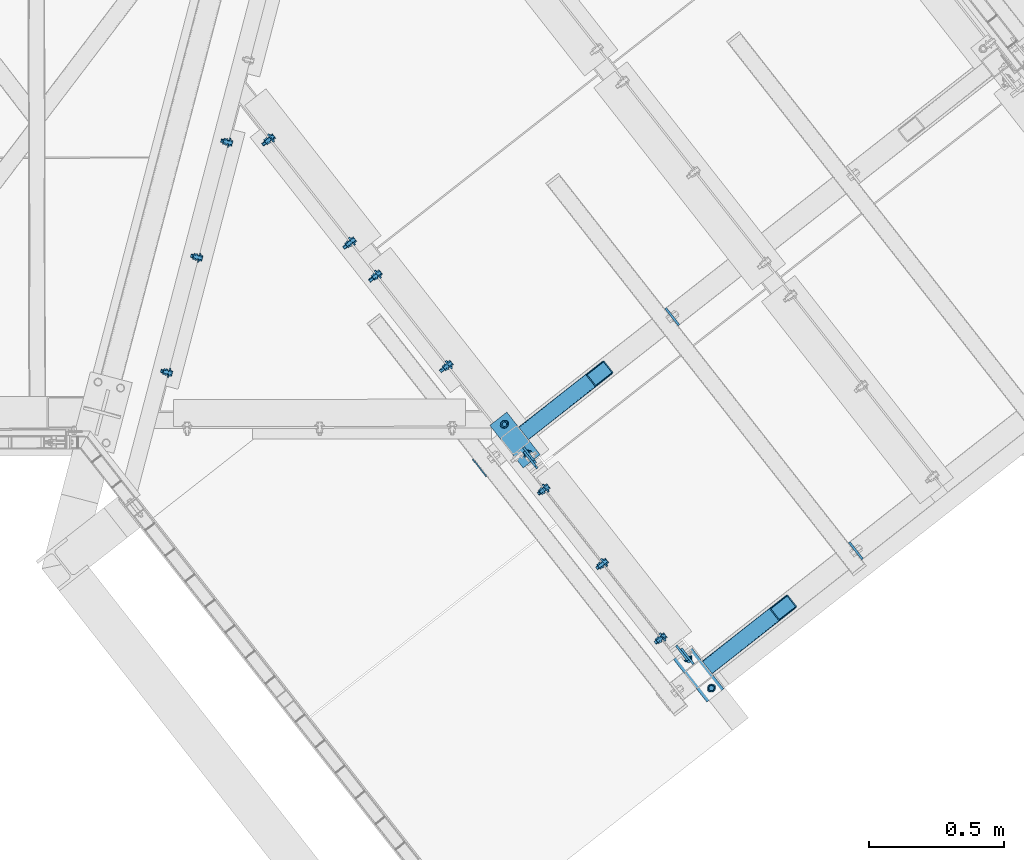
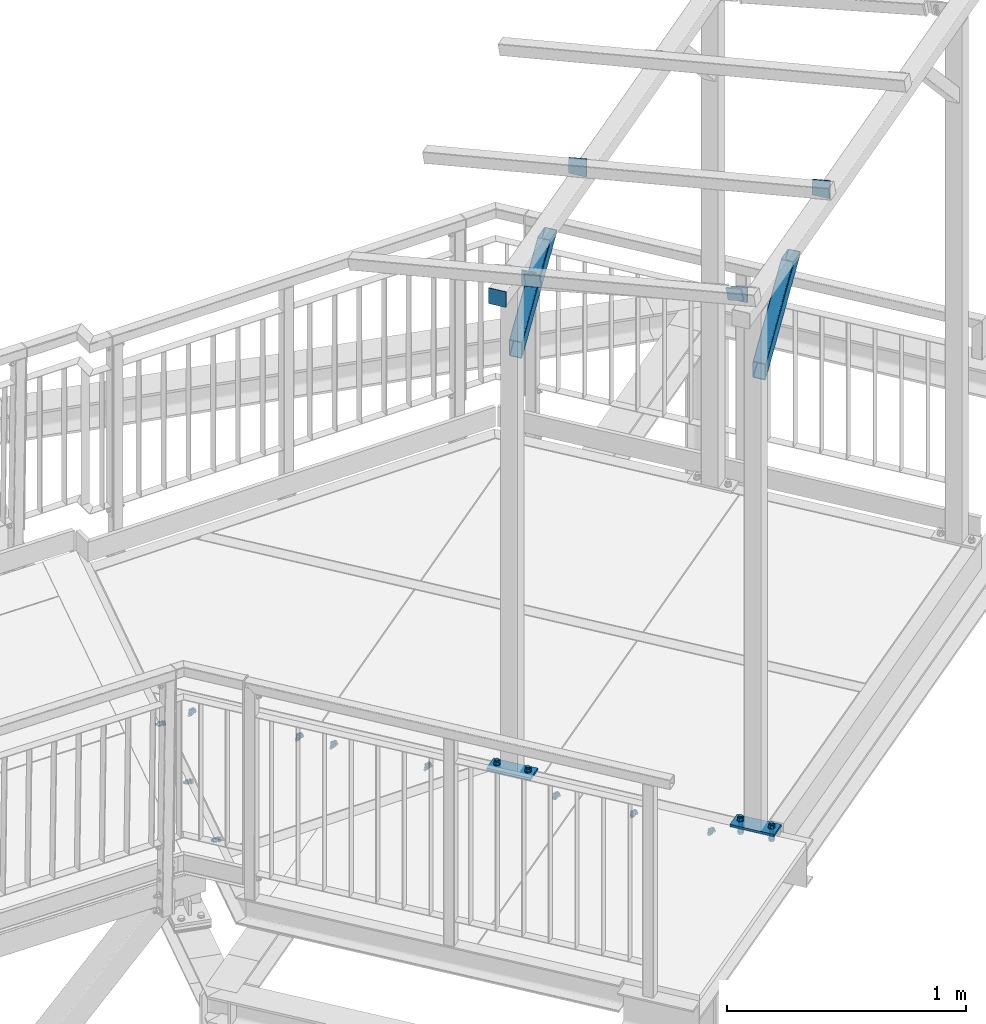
# One storey, part 125 of 169: 11 discrete accessories, 7 mechanical fasteners, 8 elements without a shape of their own.
"""IFC2X3 building model written with IfcOpenShell, lengths in millimetres."""

from ifc_helpers import new_model, si_unit, frame, frame_2d, origin_with_axes, origin_2d_with_axis, place, context, subcontext, project, spatial, polyline, circle_curve, parameter, trimmed, segment, composite_curve, hollow_rectangle, circle, outline, extrude, clip, halfspace, source, transform, mapped, material, type_object, element, aggregate, save


model = new_model("IFC2X3")

# Units and contexts
model_context = context("Model", 3, precision=1e-05, world=origin_with_axes())
body_context = subcontext(model_context, "Body", "Model", "MODEL_VIEW")
ifc_project = project(units=[si_unit("LENGTHUNIT", "METRE", prefix="MILLI"), si_unit("AREAUNIT", "SQUARE_METRE"), si_unit("VOLUMEUNIT", "CUBIC_METRE"), si_unit("MASSUNIT", "GRAM", prefix="KILO"), si_unit("TIMEUNIT", "SECOND"), si_unit("PLANEANGLEUNIT", "RADIAN"), si_unit("SOLIDANGLEUNIT", "STERADIAN"), si_unit("THERMODYNAMICTEMPERATUREUNIT", "DEGREE_CELSIUS"), si_unit("LUMINOUSINTENSITYUNIT", "LUMEN")], contexts=[model_context])

# Site, building, storey
site_placement = place(None, origin_with_axes())
site = spatial("IfcSite", under=ifc_project, at=site_placement, Name="Undefined", CompositionType="ELEMENT")
building_placement = place(site_placement, origin_with_axes())
building = spatial("IfcBuilding", under=site, at=building_placement, Name="Undefined", CompositionType="ELEMENT")
storey_placement = place(building_placement, origin_with_axes())
storey = spatial("IfcBuildingStorey", under=building, at=storey_placement, Name="Undefined", CompositionType="ELEMENT", Elevation=0.0)

# Assembly, discrete accessory
assembly_1_placement = place(storey_placement, origin_with_axes())
assembly_1 = element("IfcElementAssembly", 1, at=assembly_1_placement, inside=storey, Name="Steel Assembly", AssemblyPlace="NOTDEFINED", PredefinedType="RIGID_FRAME")
ifc_material_1 = material(Name="STEEL/S235")
discrete_accessory_type_1 = type_object("IfcDiscreteAccessoryType", Name="BLACHA")
discrete_accessory_1_placement = place(assembly_1_placement, frame((21199.3847495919, -340.369621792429, 16540.2280067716), z_axis=(-0.7867732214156, -0.61724217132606, -1.0406294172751e-07), x_axis=(0.617242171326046, -0.786773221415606, 1.36000016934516e-07)))
discrete_accessory_1 = element("IfcDiscreteAccessory", 2, at=discrete_accessory_1_placement, type_object=discrete_accessory_type_1, material=ifc_material_1, Name="BLACHA", ObjectType="BL8*80", context=body_context, shape_type="SweptSolid", body=[
    extrude(outline(polyline([(0.0, 0.0), (80.0000000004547, 5.02041075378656e-10), (80.0000000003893, 89.9999999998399), (-2.08646997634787e-06, 77.0), (0.0, 0.0)])), frame((1.81942236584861e-12, -3.63797880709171e-12, -4.00000000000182), z_axis=(0.0, 0.0, 1.0), x_axis=(1.0, 0.0, 0.0)), (0.0, 0.0, 1.0), 8.0),
])

# Assembly, discrete accessories
assembly_2_placement = place(storey_placement, origin_with_axes())
assembly_2 = element("IfcElementAssembly", 3, at=assembly_2_placement, inside=storey, Name="Steel Assembly", AssemblyPlace="NOTDEFINED", PredefinedType="RIGID_FRAME")
discrete_accessory_2_placement = place(assembly_2_placement, frame((20520.4185725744, 525.080652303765, 16364.2280064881), z_axis=(-0.7867732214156, -0.61724217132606, -1.0406294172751e-07), x_axis=(0.617242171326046, -0.786773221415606, 1.36000016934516e-07)))
discrete_accessory_2 = element("IfcDiscreteAccessory", 4, at=discrete_accessory_2_placement, type_object=discrete_accessory_type_1, material=ifc_material_1, Name="BLACHA", ObjectType="BL8*80", context=body_context, shape_type="SweptSolid", body=[
    extrude(outline(polyline([(0.0, 0.0), (80.0000000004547, 5.02041075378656e-10), (80.0000000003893, 89.9999999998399), (-2.08646997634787e-06, 77.0), (0.0, 0.0)])), frame((1.81942236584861e-12, -3.63797880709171e-12, -4.00000000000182), z_axis=(0.0, 0.0, 1.0), x_axis=(1.0, 0.0, 0.0)), (0.0, 0.0, 1.0), 8.0),
])
discrete_accessory_3_placement = place(assembly_2_placement, frame((19995.1540041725, 62.1571908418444, 13802.4173934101), z_axis=(0.0, 0.0, 1.0), x_axis=(-0.7867732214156, -0.61724217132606, -1.0406294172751e-07)))
discrete_accessory_3 = element("IfcDiscreteAccessory", 5, at=discrete_accessory_3_placement, type_object=discrete_accessory_type_1, material=ifc_material_1, Name="BLACHA", ObjectType="BL12*200", context=body_context, shape_type="SweptSolid", body=[
    extrude(outline(polyline([(80.0, -100.00000000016), (-4.00177668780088e-11, -100.000000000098), (4.00177668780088e-11, 100.000000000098), (80.00000000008, 100.000000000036), (80.0, -100.00000000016)])), frame((-1.81898942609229e-12, -1.81898940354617e-12, -5.99999999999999), z_axis=(0.0, 0.0, 1.0), x_axis=(1.0, 0.0, 0.0)), (0.0, 0.0, 1.0), 12.0),
])

# Discrete accessory
discrete_accessory_4_placement = place(assembly_1_placement, frame((20674.1203915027, -803.293352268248, 13801.4175387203), z_axis=(0.0, 0.0, 1.0), x_axis=(-0.7867732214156, -0.61724217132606, -1.0406294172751e-07)))
discrete_accessory_4 = element("IfcDiscreteAccessory", 6, at=discrete_accessory_4_placement, type_object=discrete_accessory_type_1, material=ifc_material_1, Name="BLACHA", ObjectType="BL12*200", context=body_context, shape_type="SweptSolid", body=[
    extrude(outline(polyline([(80.0, -100.00000000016), (-4.00177668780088e-11, -100.000000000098), (4.00177668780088e-11, 100.000000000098), (80.00000000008, 100.000000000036), (80.0, -100.00000000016)])), frame((-1.81898942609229e-12, -1.81898940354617e-12, -5.99999999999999), z_axis=(0.0, 0.0, 1.0), x_axis=(1.0, 0.0, 0.0)), (0.0, 0.0, 1.0), 12.0),
])

# Assembly, discrete accessory
assembly_3_placement = place(storey_placement, origin_with_axes())
assembly_3 = element("IfcElementAssembly", 7, at=assembly_3_placement, inside=storey, Name="Steel Assembly", AssemblyPlace="NOTDEFINED", PredefinedType="RIGID_FRAME")
discrete_accessory_5_placement = place(assembly_3_placement, frame((20609.1754595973, -785.315101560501, 16473.0800036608), z_axis=(-0.7867732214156, -0.61724217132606, -1.0406294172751e-07), x_axis=(-0.111881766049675, 0.142611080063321, 0.983435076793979)))
discrete_accessory_5 = element("IfcDiscreteAccessory", 8, at=discrete_accessory_5_placement, type_object=discrete_accessory_type_1, material=ifc_material_1, Name="BLACHA", ObjectType="BL8*60", context=body_context, shape_type="SweptSolid", body=[
    extrude(outline(polyline([(0.0, 0.0), (60.0000000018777, -8.8220986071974e-11), (60.0000000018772, 69.999999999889), (1.4915713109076e-10, 69.9999999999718), (0.0, 0.0)])), frame((1.81942236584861e-12, -3.63797880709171e-12, -4.00000000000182), z_axis=(0.0, 0.0, 1.0), x_axis=(1.0, 0.0, 0.0)), (0.0, 0.0, 1.0), 8.0),
])

# Discrete accessory
discrete_accessory_6_placement = place(assembly_1_placement, frame((20624.2535450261, -791.573639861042, 16461.5583801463), z_axis=(-0.7867732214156, -0.61724217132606, -1.0406294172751e-07), x_axis=(0.0, 0.0, 1.0)))
discrete_accessory_6 = element("IfcDiscreteAccessory", 9, at=discrete_accessory_6_placement, type_object=discrete_accessory_type_1, material=ifc_material_1, Name="BLACHA", ObjectType="BL8*75", context=body_context, shape_type="SweptSolid", body=[
    extrude(outline(polyline([(0.0, 0.0), (77.697319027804, 2.60843080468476e-09), (63.9232788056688, 74.7314300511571), (-2.93584889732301e-09, 62.9494819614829), (0.0, 0.0)])), frame((1.81942236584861e-12, -3.63797880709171e-12, -4.00000000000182), z_axis=(0.0, 0.0, 1.0), x_axis=(1.0, 0.0, 0.0)), (0.0, 0.0, 1.0), 8.0),
])

discrete_accessory_7_placement = place(assembly_3_placement, frame((19997.1564551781, -5.19963707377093, 16351.3364554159), z_axis=(-0.7867732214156, -0.61724217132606, -1.0406294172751e-07), x_axis=(0.111881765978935, -0.142611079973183, -0.983435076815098)))
discrete_accessory_7 = element("IfcDiscreteAccessory", 10, at=discrete_accessory_7_placement, type_object=discrete_accessory_type_1, material=ifc_material_1, Name="BLACHA", ObjectType="BL8*60", context=body_context, shape_type="SweptSolid", body=[
    extrude(outline(polyline([(0.0, 0.0), (60.0000000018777, -8.8220986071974e-11), (60.0000000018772, 69.999999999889), (1.4915713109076e-10, 69.9999999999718), (0.0, 0.0)])), frame((1.81942236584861e-12, -3.63797880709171e-12, -4.00000000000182), z_axis=(0.0, 0.0, 1.0), x_axis=(1.0, 0.0, 0.0)), (0.0, 0.0, 1.0), 8.0),
])

aggregate(assembly_3, [discrete_accessory_5, discrete_accessory_7])

discrete_accessory_8_placement = place(assembly_2_placement, frame((19994.6667412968, 10.9347759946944, 16362.8580790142), z_axis=(-0.7867732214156, -0.61724217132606, -1.0406294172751e-07), x_axis=(-2.54700353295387e-10, 0.0, -1.0)))
discrete_accessory_8 = element("IfcDiscreteAccessory", 11, at=discrete_accessory_8_placement, type_object=discrete_accessory_type_1, material=ifc_material_1, Name="BLACHA", ObjectType="BL8*75", context=body_context, shape_type="SweptSolid", body=[
    extrude(outline(polyline([(0.0, 0.0), (77.697319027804, 2.60843080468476e-09), (63.9232788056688, 74.7314300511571), (-2.93584889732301e-09, 62.9494819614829), (0.0, 0.0)])), frame((1.81942236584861e-12, -3.63797880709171e-12, -4.00000000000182), z_axis=(0.0, 0.0, 1.0), x_axis=(1.0, 0.0, 0.0)), (0.0, 0.0, 1.0), 8.0),
])

discrete_accessory_9_placement = place(assembly_2_placement, frame((19807.9954205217, -33.8321338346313, 16364.2279124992), z_axis=(0.786773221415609, 0.617242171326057, 0.0), x_axis=(0.617242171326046, -0.786773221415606, 1.36000016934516e-07)))
discrete_accessory_9 = element("IfcDiscreteAccessory", 12, at=discrete_accessory_9_placement, type_object=discrete_accessory_type_1, material=ifc_material_1, Name="BLACHA", ObjectType="BL3*80", context=body_context, shape_type="SweptSolid", body=[
    extrude(outline(polyline([(0.0, 0.0), (80.0000000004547, 5.02041075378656e-10), (80.0000000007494, 80.0000000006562), (1.40171323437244e-08, 80.0000000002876), (0.0, 0.0)])), frame((1.81898940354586e-12, -1.77635442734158e-15, -1.50000000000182), z_axis=(0.0, 0.0, 1.0), x_axis=(1.0, 0.0, 0.0)), (0.0, 0.0, 1.0), 3.0),
])

discrete_accessory_type_2 = type_object("IfcDiscreteAccessoryType", Name="BEAM")
discrete_accessory_10_placement = place(assembly_2_placement, frame((20293.1731033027, 295.960640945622, 16305.4411428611), z_axis=(0.556332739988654, 0.436456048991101, -0.707106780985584), x_axis=(-0.556332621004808, -0.436456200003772, -0.707106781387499)))
discrete_accessory_10 = element("IfcDiscreteAccessory", 13, at=discrete_accessory_10_placement, type_object=discrete_accessory_type_2, material=ifc_material_1, Name="BEAM", ObjectType="SHS60*3", context=body_context, shape_type="Clipping", body=[
    clip(clip(extrude(hollow_rectangle(XDim=60.0, YDim=60.0, WallThickness=3.0, InnerFilletRadius=3.0, OuterFilletRadius=6.0, at=origin_2d_with_axis()), frame((637.904540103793, 1.81363206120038e-12, 3.67338962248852e-12), z_axis=(-1.0, -3.46944695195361e-18, -1.38777878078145e-17), x_axis=(1.73472347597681e-18, -1.0, 0.0)), (0.0, 0.0, 1.0), 710.12), halfspace(frame((-143.137085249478, 3.41260601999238e-08, -678.822510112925), z_axis=(-0.707106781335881, -2.34577541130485e-10, 0.707106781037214), x_axis=(0.0, 1.0, 0.0)), True)), halfspace(frame((-705.391195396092, 5.44144313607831e-06, 735.390981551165), z_axis=(0.707106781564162, 2.34575523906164e-10, 0.707106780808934), x_axis=(0.0, 1.0, 0.0)), True)),
])

discrete_accessory_11_placement = place(assembly_1_placement, frame((20972.1394769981, -569.48988379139, 16481.4411431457), z_axis=(0.556332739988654, 0.436456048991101, -0.707106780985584), x_axis=(-0.556332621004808, -0.436456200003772, -0.707106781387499)))
discrete_accessory_11 = element("IfcDiscreteAccessory", 14, at=discrete_accessory_11_placement, type_object=discrete_accessory_type_2, material=ifc_material_1, Name="BEAM", ObjectType="SHS60*3", context=body_context, shape_type="Clipping", body=[
    clip(clip(extrude(hollow_rectangle(XDim=60.0, YDim=60.0, WallThickness=3.0, InnerFilletRadius=3.0, OuterFilletRadius=6.0, at=origin_2d_with_axis()), frame((637.904540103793, 1.81363206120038e-12, 3.67338962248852e-12), z_axis=(-1.0, -3.46944695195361e-18, -1.38777878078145e-17), x_axis=(1.73472347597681e-18, -1.0, 0.0)), (0.0, 0.0, 1.0), 710.12), halfspace(frame((-143.137085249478, 3.41260601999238e-08, -678.822510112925), z_axis=(-0.707106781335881, -2.34577541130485e-10, 0.707106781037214), x_axis=(0.0, 1.0, 0.0)), True)), halfspace(frame((-705.391195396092, 5.44144313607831e-06, 735.390981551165), z_axis=(0.707106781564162, 2.34575523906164e-10, 0.707106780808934), x_axis=(0.0, 1.0, 0.0)), True)),
])

# Assembly, mechanical fastener
assembly_4_placement = place(storey_placement, origin_with_axes())
assembly_4 = element("IfcElementAssembly", 15, at=assembly_4_placement, inside=storey, Name="Steel Assembly", AssemblyPlace="NOTDEFINED", PredefinedType="RIGID_FRAME")
ifc_material_2 = material(Name="Undefined")
discrete_accessory_type_3 = type_object("IfcDiscreteAccessoryType", Name="Bolt assembly")
shared_shape_1 = source(origin_with_axes(), body_context, "Body", "SweptSolid", [
    extrude(circle(Radius=7.5, at=origin_2d_with_axis()), frame((0.0, 4.99997856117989, 0.0), z_axis=(0.0, 1.0, 0.0), x_axis=(1.0, 0.0, 0.0)), (0.0, 0.0, 1.0), 7.0),
    extrude(outline(composite_curve([segment(polyline([(-10.0, 7.5), (10.0, 7.5)]), True, "CONTINUOUS"), segment(trimmed(circle_curve(frame_2d((10.0, 0.0), x_axis=(0.0, 1.0)), 7.5), [parameter(0.0)], [parameter(3.14159265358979)], False, "PARAMETER"), True, "CONTINUOUS"), segment(polyline([(10.0, -7.5), (-10.0, -7.5)]), True, "CONTINUOUS"), segment(trimmed(circle_curve(frame_2d((-10.0, 0.0), x_axis=(0.0, -1.0)), 7.5), [parameter(0.0)], [parameter(3.14159265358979)], False, "PARAMETER"), True, "DISCONTINUOUS")], self_intersect=False)), frame((0.0, 0.100000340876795, 0.0), z_axis=(0.0, 1.0, 0.0), x_axis=(1.0, 0.0, 0.0)), (0.0, 0.0, 1.0), 5.0),
    extrude(circle(Radius=7.5, at=origin_2d_with_axis()), frame((0.0, 11.9059306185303, 0.0), z_axis=(0.0, 1.0, 0.0), x_axis=(1.0, 0.0, 0.0)), (0.0, 0.0, 1.0), 3.1),
    extrude(outline(polyline([(10.39230484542, 0.0), (5.19615242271, 9.00000000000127), (-5.19615242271, 9.00000000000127), (-10.39230484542, 0.0), (-5.19615242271, -9.00000000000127), (5.19615242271, -9.00000000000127), (10.39230484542, 0.0)])), frame((0.0, -10.4999989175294, 0.0), z_axis=(0.0, 1.0, 0.0), x_axis=(1.0, 0.0, 0.0)), (0.0, 0.0, 1.0), 7.5),
    extrude(circle(Radius=6.0, at=origin_2d_with_axis()), frame((0.0, -3.00000607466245, 0.0), z_axis=(0.0, 1.0, 0.0), x_axis=(1.0, 0.0, 0.0)), (0.0, 0.0, 1.0), 45.0),
    extrude(circle(Radius=12.0, at=origin_2d_with_axis()), frame((0.0, -3.00000607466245, 0.0), z_axis=(0.0, 1.0, 0.0), x_axis=(1.0, 0.0, 0.0)), (0.0, 0.0, 1.0), 3.0),
    extrude(circle(Radius=12.0, at=origin_2d_with_axis()), frame((0.0, 15.0059306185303, 0.0), z_axis=(0.0, 1.0, 0.0), x_axis=(1.0, 0.0, 0.0)), (0.0, 0.0, 1.0), 3.0),
    extrude(outline(polyline([(10.96965511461, 0.0), (5.484827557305, 9.50000000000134), (-5.484827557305, 9.50000000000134), (-10.96965511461, 0.0), (-5.484827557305, -9.50000000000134), (5.484827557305, -9.50000000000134), (10.96965511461, 0.0)])), frame((0.0, 18.0059306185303, 0.0), z_axis=(0.0, 1.0, 0.0), x_axis=(1.0, 0.0, 0.0)), (0.0, 0.0, 1.0), 10.0),
])
mechanical_fastener_1_placement = place(assembly_4_placement, frame((19363.0389986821, 773.921841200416, 13740.4178196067), z_axis=(0.0, 0.0, 1.0), x_axis=(-0.617242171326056, 0.786773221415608, 5.09999997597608e-08)))
mechanical_fastener_1 = element("IfcMechanicalFastener", 16, at=mechanical_fastener_1_placement, type_object=discrete_accessory_type_3, material=ifc_material_2, Name="Bolt assembly", NominalDiameter=12.0, NominalLength=45.0, context=body_context, shape_type="MappedRepresentation", body=[
    mapped(shared_shape_1, transform((0.0, 0.0, 0.0))),
    mapped(shared_shape_1, transform((485.000000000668, -1.25510268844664e-10, 1.80625647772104e-09))),
])
aggregate(assembly_4, [mechanical_fastener_1])

assembly_5_placement = place(storey_placement, origin_with_axes())
assembly_5 = element("IfcElementAssembly", 17, at=assembly_5_placement, inside=storey, Name="Steel Assembly", AssemblyPlace="NOTDEFINED", PredefinedType="RIGID_FRAME")
shared_shape_2 = source(origin_with_axes(), body_context, "Body", "SweptSolid", [
    extrude(circle(Radius=7.5, at=origin_2d_with_axis()), frame((0.0, 4.89999999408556, 0.0), z_axis=(0.0, 1.0, 0.0), x_axis=(1.0, 0.0, 0.0)), (0.0, 0.0, 1.0), 7.1),
    extrude(outline(composite_curve([segment(polyline([(-10.0, 7.5), (10.0, 7.5)]), True, "CONTINUOUS"), segment(trimmed(circle_curve(frame_2d((10.0, 0.0), x_axis=(0.0, 1.0)), 7.5), [parameter(0.0)], [parameter(3.14159265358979)], False, "PARAMETER"), True, "CONTINUOUS"), segment(polyline([(10.0, -7.5), (-10.0, -7.5)]), True, "CONTINUOUS"), segment(trimmed(circle_curve(frame_2d((-10.0, 0.0), x_axis=(0.0, -1.0)), 7.5), [parameter(0.0)], [parameter(3.14159265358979)], False, "PARAMETER"), True, "DISCONTINUOUS")], self_intersect=False)), frame((0.0, 0.100000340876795, 0.0), z_axis=(0.0, 1.0, 0.0), x_axis=(1.0, 0.0, 0.0)), (0.0, 0.0, 1.0), 5.0),
    extrude(outline(polyline([(10.39230484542, 0.0), (5.19615242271, 9.00000000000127), (-5.19615242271, 9.00000000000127), (-10.39230484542, 0.0), (-5.19615242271, -9.00000000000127), (5.19615242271, -9.00000000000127), (10.39230484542, 0.0)])), frame((0.0, -10.4999989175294, 0.0), z_axis=(0.0, 1.0, 0.0), x_axis=(1.0, 0.0, 0.0)), (0.0, 0.0, 1.0), 7.5),
    extrude(circle(Radius=6.0, at=origin_2d_with_axis()), frame((0.0, -3.00000607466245, 0.0), z_axis=(0.0, 1.0, 0.0), x_axis=(1.0, 0.0, 0.0)), (0.0, 0.0, 1.0), 45.0),
    extrude(circle(Radius=12.0, at=origin_2d_with_axis()), frame((0.0, -3.00000607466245, 0.0), z_axis=(0.0, 1.0, 0.0), x_axis=(1.0, 0.0, 0.0)), (0.0, 0.0, 1.0), 3.0),
    extrude(circle(Radius=12.0, at=origin_2d_with_axis()), frame((0.0, 12.000000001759, 0.0), z_axis=(0.0, 1.0, 0.0), x_axis=(1.0, 0.0, 0.0)), (0.0, 0.0, 1.0), 3.0),
    extrude(outline(polyline([(10.96965511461, 0.0), (5.484827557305, 9.50000000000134), (-5.484827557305, 9.50000000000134), (-10.96965511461, 0.0), (-5.484827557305, -9.50000000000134), (5.484827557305, -9.50000000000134), (10.96965511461, 0.0)])), frame((0.0, 14.9999935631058, 0.0), z_axis=(0.0, 1.0, 0.0), x_axis=(1.0, 0.0, 0.0)), (0.0, 0.0, 1.0), 10.0),
])
mechanical_fastener_2_placement = place(assembly_5_placement, frame((19721.1174065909, 317.494017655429, 13740.4179537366), z_axis=(0.0, 0.0, 1.0), x_axis=(-0.617242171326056, 0.786773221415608, 5.09999997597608e-08)))
mechanical_fastener_2 = element("IfcMechanicalFastener", 18, at=mechanical_fastener_2_placement, type_object=discrete_accessory_type_3, material=ifc_material_2, Name="Bolt assembly", NominalDiameter=12.0, NominalLength=45.0, context=body_context, shape_type="MappedRepresentation", body=[
    mapped(shared_shape_2, transform((0.0, 0.0, 0.0))),
    mapped(shared_shape_2, transform((425.000000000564, -1.43700162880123e-10, -1.69166014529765e-10))),
])
aggregate(assembly_5, [mechanical_fastener_2])

assembly_6_placement = place(storey_placement, origin_with_axes())
assembly_6 = element("IfcElementAssembly", 19, at=assembly_6_placement, inside=storey, Name="Steel Assembly", AssemblyPlace="NOTDEFINED", PredefinedType="RIGID_FRAME")
shared_shape_3 = source(origin_with_axes(), body_context, "Body", "SweptSolid", [
    extrude(circle(Radius=7.5, at=origin_2d_with_axis()), frame((0.0, 4.99997856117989, 0.0), z_axis=(0.0, 1.0, 0.0), x_axis=(1.0, 0.0, 0.0)), (0.0, 0.0, 1.0), 7.0),
    extrude(circle(Radius=7.5, at=origin_2d_with_axis()), frame((0.0, 11.899975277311, 0.0), z_axis=(0.0, 1.0, 0.0), x_axis=(1.0, 0.0, 0.0)), (0.0, 0.0, 1.0), 3.1),
    extrude(outline(composite_curve([segment(polyline([(-10.0, 7.5), (10.0, 7.5)]), True, "CONTINUOUS"), segment(trimmed(circle_curve(frame_2d((10.0, 0.0), x_axis=(0.0, 1.0)), 7.5), [parameter(0.0)], [parameter(3.14159265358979)], False, "PARAMETER"), True, "CONTINUOUS"), segment(polyline([(10.0, -7.5), (-10.0, -7.5)]), True, "CONTINUOUS"), segment(trimmed(circle_curve(frame_2d((-10.0, 0.0), x_axis=(0.0, -1.0)), 7.5), [parameter(0.0)], [parameter(3.14159265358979)], False, "PARAMETER"), True, "DISCONTINUOUS")], self_intersect=False)), frame((0.0, 0.100000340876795, 0.0), z_axis=(0.0, 1.0, 0.0), x_axis=(1.0, 0.0, 0.0)), (0.0, 0.0, 1.0), 5.0),
    extrude(outline(polyline([(10.39230484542, 0.0), (5.19615242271, 9.00000000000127), (-5.19615242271, 9.00000000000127), (-10.39230484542, 0.0), (-5.19615242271, -9.00000000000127), (5.19615242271, -9.00000000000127), (10.39230484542, 0.0)])), frame((0.0, -10.4999989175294, 0.0), z_axis=(0.0, 1.0, 0.0), x_axis=(1.0, 0.0, 0.0)), (0.0, 0.0, 1.0), 7.5),
    extrude(circle(Radius=6.0, at=origin_2d_with_axis()), frame((0.0, -3.00000607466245, 0.0), z_axis=(0.0, 1.0, 0.0), x_axis=(1.0, 0.0, 0.0)), (0.0, 0.0, 1.0), 40.0),
    extrude(circle(Radius=12.0, at=origin_2d_with_axis()), frame((0.0, -3.00000607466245, 0.0), z_axis=(0.0, 1.0, 0.0), x_axis=(1.0, 0.0, 0.0)), (0.0, 0.0, 1.0), 3.0),
    extrude(circle(Radius=12.0, at=origin_2d_with_axis()), frame((0.0, 14.9999935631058, 0.0), z_axis=(0.0, 1.0, 0.0), x_axis=(1.0, 0.0, 0.0)), (0.0, 0.0, 1.0), 3.0),
    extrude(outline(polyline([(10.96965511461, 0.0), (5.484827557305, 9.50000000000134), (-5.484827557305, 9.50000000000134), (-10.96965511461, 0.0), (-5.484827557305, -9.50000000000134), (5.484827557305, -9.50000000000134), (10.96965511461, 0.0)])), frame((0.0, 17.9999752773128, 0.0), z_axis=(0.0, 1.0, 0.0), x_axis=(1.0, 0.0, 0.0)), (0.0, 0.0, 1.0), 10.0),
])
mechanical_fastener_3_placement = place(assembly_6_placement, frame((20511.187384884, -689.575705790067, 13740.4179349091), z_axis=(0.0, 0.0, 1.0), x_axis=(-0.617242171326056, 0.786773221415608, 5.09999997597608e-08)))
mechanical_fastener_3 = element("IfcMechanicalFastener", 20, at=mechanical_fastener_3_placement, type_object=discrete_accessory_type_3, material=ifc_material_2, Name="Bolt assembly", NominalDiameter=12.0, NominalLength=40.0, context=body_context, shape_type="MappedRepresentation", body=[
    mapped(shared_shape_3, transform((0.0, 0.0, 0.0))),
    mapped(shared_shape_3, transform((350.000000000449, -1.43700162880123e-10, 1.19871401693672e-09))),
    mapped(shared_shape_3, transform((699.999999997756, 1.81898938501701e-12, -3.03576608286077e-16))),
])
aggregate(assembly_6, [mechanical_fastener_3])

assembly_7_placement = place(storey_placement, origin_with_axes())
assembly_7 = element("IfcElementAssembly", 21, at=assembly_7_placement, inside=storey, Name="Steel Assembly", AssemblyPlace="NOTDEFINED", PredefinedType="RIGID_FRAME")
shared_shape_4 = source(origin_with_axes(), body_context, "Body", "SweptSolid", [
    extrude(circle(Radius=7.5, at=origin_2d_with_axis()), frame((0.0, 2.84017219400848, 0.0), z_axis=(0.0, 1.0, 0.0), x_axis=(1.0, 0.0, 0.0)), (0.0, 0.0, 1.0), 7.1),
    extrude(outline(composite_curve([segment(polyline([(-10.0, 7.5), (10.0, 7.5)]), True, "CONTINUOUS"), segment(trimmed(circle_curve(frame_2d((10.0, 0.0), x_axis=(0.0, 1.0)), 7.5), [parameter(0.0)], [parameter(3.14159265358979)], False, "PARAMETER"), True, "CONTINUOUS"), segment(polyline([(10.0, -7.5), (-10.0, -7.5)]), True, "CONTINUOUS"), segment(trimmed(circle_curve(frame_2d((-10.0, 0.0), x_axis=(0.0, -1.0)), 7.5), [parameter(0.0)], [parameter(3.14159265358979)], False, "PARAMETER"), True, "DISCONTINUOUS")], self_intersect=False)), frame((0.0, 0.100000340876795, 0.0), z_axis=(0.0, 1.0, 0.0), x_axis=(1.0, 0.0, 0.0)), (0.0, 0.0, 1.0), 3.0),
    extrude(outline(polyline([(10.39230484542, 0.0), (5.19615242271, 9.00000000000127), (-5.19615242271, 9.00000000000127), (-10.39230484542, 0.0), (-5.19615242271, -9.00000000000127), (5.19615242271, -9.00000000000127), (10.39230484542, 0.0)])), frame((0.0, -10.4999989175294, 0.0), z_axis=(0.0, 1.0, 0.0), x_axis=(1.0, 0.0, 0.0)), (0.0, 0.0, 1.0), 7.5),
    extrude(circle(Radius=6.0, at=origin_2d_with_axis()), frame((0.0, -3.00000607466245, 0.0), z_axis=(0.0, 1.0, 0.0), x_axis=(1.0, 0.0, 0.0)), (0.0, 0.0, 1.0), 35.0),
    extrude(circle(Radius=12.0, at=origin_2d_with_axis()), frame((0.0, -3.00000607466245, 0.0), z_axis=(0.0, 1.0, 0.0), x_axis=(1.0, 0.0, 0.0)), (0.0, 0.0, 1.0), 3.0),
    extrude(circle(Radius=12.0, at=origin_2d_with_axis()), frame((0.0, 9.94017219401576, 0.0), z_axis=(0.0, 1.0, 0.0), x_axis=(1.0, 0.0, 0.0)), (0.0, 0.0, 1.0), 3.0),
    extrude(outline(polyline([(10.96965511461, 0.0), (5.484827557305, 9.50000000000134), (-5.484827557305, 9.50000000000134), (-10.96965511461, 0.0), (-5.484827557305, -9.50000000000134), (5.484827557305, -9.50000000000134), (10.96965511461, 0.0)])), frame((0.0, 12.9401721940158, 0.0), z_axis=(0.0, 1.0, 0.0), x_axis=(1.0, 0.0, 0.0)), (0.0, 0.0, 1.0), 10.0),
])
mechanical_fastener_4_placement = place(assembly_7_placement, frame((18685.7101274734, 285.271811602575, 13740.4179521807), z_axis=(0.0, 0.0, 1.0), x_axis=(0.252628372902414, 0.967563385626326, 0.0)))
mechanical_fastener_4 = element("IfcMechanicalFastener", 22, at=mechanical_fastener_4_placement, type_object=discrete_accessory_type_3, material=ifc_material_2, Name="Bolt assembly", NominalDiameter=12.0, NominalLength=35.0, context=body_context, shape_type="MappedRepresentation", body=[
    mapped(shared_shape_4, transform((0.0, 0.0, 0.0))),
    mapped(shared_shape_4, transform((439.999999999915, 1.09139364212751e-11, 2.00088834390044e-11))),
    mapped(shared_shape_4, transform((879.999999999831, 2.5465851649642e-11, 4.18367562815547e-11))),
])
aggregate(assembly_7, [mechanical_fastener_4])

assembly_8_placement = place(storey_placement, origin_with_axes())
assembly_8 = element("IfcElementAssembly", 23, at=assembly_8_placement, inside=storey, Name="Steel Assembly", AssemblyPlace="NOTDEFINED", PredefinedType="RIGID_FRAME")
shared_shape_5 = source(origin_with_axes(), body_context, "Body", "SweptSolid", [
    extrude(circle(Radius=9.5, at=origin_2d_with_axis()), frame((0.0, 19.8999999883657, 0.0), z_axis=(0.0, 1.0, 0.0), x_axis=(1.0, 0.0, 0.0)), (0.0, 0.0, 1.0), 10.1),
    extrude(circle(Radius=9.5, at=origin_2d_with_axis()), frame((0.0, 9.99999999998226, 0.0), z_axis=(0.0, 1.0, 0.0), x_axis=(1.0, 0.0, 0.0)), (0.0, 0.0, 1.0), 10.0),
    extrude(circle(Radius=9.5, at=origin_2d_with_axis()), frame((0.0, 0.100000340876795, 0.0), z_axis=(0.0, 1.0, 0.0), x_axis=(1.0, 0.0, 0.0)), (0.0, 0.0, 1.0), 10.0),
])
mechanical_fastener_5_placement = place(assembly_8_placement, frame((20646.5832564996, -824.896735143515, 13795.4174395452), z_axis=(0.617242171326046, -0.786773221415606, 1.36000016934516e-07), x_axis=(-0.7867732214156, -0.61724217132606, -1.0406294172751e-07)))
mechanical_fastener_5 = element("IfcMechanicalFastener", 24, at=mechanical_fastener_5_placement, type_object=discrete_accessory_type_3, material=ifc_material_2, Name="Bolt assembly", NominalDiameter=16.0, NominalLength=30.0, context=body_context, shape_type="MappedRepresentation", body=[
    mapped(shared_shape_5, transform((9.09494701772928e-12, -7.82165443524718e-11, -70.0000000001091))),
    mapped(shared_shape_5, transform((-9.09494701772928e-12, 7.82165443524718e-11, 70.0000000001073))),
])
aggregate(assembly_8, [mechanical_fastener_5])

# Mechanical fastener
shared_shape_6 = source(origin_with_axes(), body_context, "Body", "SweptSolid", [
    extrude(circle(Radius=9.5, at=origin_2d_with_axis()), frame((0.0, -26.6499994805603, 0.0), z_axis=(0.0, 1.0, 0.0), x_axis=(1.0, 0.0, 0.0)), (0.0, 0.0, 1.0), 11.5),
    extrude(outline(composite_curve([segment(polyline([(-7.5, 9.5), (7.5, 9.5)]), True, "CONTINUOUS"), segment(trimmed(circle_curve(frame_2d((7.5, 0.0), x_axis=(0.0, 1.0)), 9.5), [parameter(0.0)], [parameter(3.14159265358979)], False, "PARAMETER"), True, "CONTINUOUS"), segment(polyline([(7.5, -9.5), (-7.5, -9.5)]), True, "CONTINUOUS"), segment(trimmed(circle_curve(frame_2d((-7.5, 0.0), x_axis=(0.0, -1.0)), 9.5), [parameter(0.0)], [parameter(3.14159265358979)], False, "PARAMETER"), True, "DISCONTINUOUS")], self_intersect=False)), frame((0.0, 14.6500000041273, 0.0), z_axis=(0.0, 1.0, 0.0), x_axis=(1.0, 0.0, 0.0)), (0.0, 0.0, 1.0), 12.1),
    extrude(outline(polyline([(13.85640646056, 0.0), (6.92820323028, 12.0000000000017), (-6.92820323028, 12.0000000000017), (-13.85640646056, 0.0), (-6.92820323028, -12.0000000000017), (6.92820323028, -12.0000000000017), (13.85640646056, 0.0)])), frame((0.0, -39.7499994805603, 0.0), z_axis=(0.0, 1.0, 0.0), x_axis=(1.0, 0.0, 0.0)), (0.0, 0.0, 1.0), 10.0),
    extrude(circle(Radius=8.0, at=origin_2d_with_axis()), frame((0.0, -29.7499994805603, 0.0), z_axis=(0.0, 1.0, 0.0), x_axis=(1.0, 0.0, 0.0)), (0.0, 0.0, 1.0), 80.0),
    extrude(circle(Radius=15.0, at=origin_2d_with_axis()), frame((0.0, -29.7499994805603, 0.0), z_axis=(0.0, 1.0, 0.0), x_axis=(1.0, 0.0, 0.0)), (0.0, 0.0, 1.0), 3.0),
    extrude(circle(Radius=15.0, at=origin_2d_with_axis()), frame((0.0, 26.7500000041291, 0.0), z_axis=(0.0, 1.0, 0.0), x_axis=(1.0, 0.0, 0.0)), (0.0, 0.0, 1.0), 3.0),
    extrude(outline(polyline([(13.85640646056, 0.0), (6.92820323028, 12.0000000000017), (-6.92820323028, 12.0000000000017), (-13.85640646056, 0.0), (-6.92820323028, -12.0000000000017), (6.92820323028, -12.0000000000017), (13.85640646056, 0.0)])), frame((0.0, 29.7500000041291, 0.0), z_axis=(0.0, 1.0, 0.0), x_axis=(1.0, 0.0, 0.0)), (0.0, 0.0, 1.0), 13.0),
])
mechanical_fastener_6_placement = place(assembly_1_placement, frame((20607.2446710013, -855.758941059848, 13780.6675387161), z_axis=(0.617242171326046, -0.786773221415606, 1.36000016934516e-07), x_axis=(0.786773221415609, 0.617242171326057, 0.0)))
mechanical_fastener_6 = element("IfcMechanicalFastener", 25, at=mechanical_fastener_6_placement, type_object=discrete_accessory_type_3, material=ifc_material_2, Name="Bolt assembly", NominalDiameter=16.0, NominalLength=80.0, context=body_context, shape_type="MappedRepresentation", body=[
    mapped(shared_shape_6, transform((50.0000000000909, 1.14596332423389e-10, -69.9999999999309))),
    mapped(shared_shape_6, transform((50.0000000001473, 1.81898940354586e-10, 70.0000000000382))),
])

aggregate(assembly_1, [discrete_accessory_1, discrete_accessory_11, mechanical_fastener_6, discrete_accessory_4, discrete_accessory_6])

shared_shape_7 = source(origin_with_axes(), body_context, "Body", "SweptSolid", [
    extrude(circle(Radius=9.5, at=origin_2d_with_axis()), frame((0.0, -11.3999999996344, 0.0), z_axis=(0.0, 1.0, 0.0), x_axis=(1.0, 0.0, 0.0)), (0.0, 0.0, 1.0), 10.0),
    extrude(outline(composite_curve([segment(polyline([(-7.5, 9.5), (7.5, 9.5)]), True, "CONTINUOUS"), segment(trimmed(circle_curve(frame_2d((7.5, 0.0), x_axis=(0.0, 1.0)), 9.5), [parameter(0.0)], [parameter(3.14159265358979)], False, "PARAMETER"), True, "CONTINUOUS"), segment(polyline([(7.5, -9.5), (-7.5, -9.5)]), True, "CONTINUOUS"), segment(trimmed(circle_curve(frame_2d((-7.5, 0.0), x_axis=(0.0, -1.0)), 9.5), [parameter(0.0)], [parameter(3.14159265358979)], False, "PARAMETER"), True, "DISCONTINUOUS")], self_intersect=False)), frame((0.0, -0.600000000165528, 0.0), z_axis=(0.0, 1.0, 0.0), x_axis=(1.0, 0.0, 0.0)), (0.0, 0.0, 1.0), 12.1),
    extrude(outline(polyline([(13.85640646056, 0.0), (6.92820323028, 12.0000000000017), (-6.92820323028, 12.0000000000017), (-13.85640646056, 0.0), (-6.92820323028, -12.0000000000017), (6.92820323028, -12.0000000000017), (13.85640646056, 0.0)])), frame((0.0, -24.4999999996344, 0.0), z_axis=(0.0, 1.0, 0.0), x_axis=(1.0, 0.0, 0.0)), (0.0, 0.0, 1.0), 10.0),
    extrude(circle(Radius=8.0, at=origin_2d_with_axis()), frame((0.0, -14.4999999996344, 0.0), z_axis=(0.0, 1.0, 0.0), x_axis=(1.0, 0.0, 0.0)), (0.0, 0.0, 1.0), 50.0),
    extrude(circle(Radius=15.0, at=origin_2d_with_axis()), frame((0.0, -14.4999999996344, 0.0), z_axis=(0.0, 1.0, 0.0), x_axis=(1.0, 0.0, 0.0)), (0.0, 0.0, 1.0), 3.0),
    extrude(circle(Radius=15.0, at=origin_2d_with_axis()), frame((0.0, 11.4999999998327, 0.0), z_axis=(0.0, 1.0, 0.0), x_axis=(1.0, 0.0, 0.0)), (0.0, 0.0, 1.0), 3.0),
    extrude(outline(polyline([(13.85640646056, 0.0), (6.92820323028, 12.0000000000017), (-6.92820323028, 12.0000000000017), (-13.85640646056, 0.0), (-6.92820323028, -12.0000000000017), (6.92820323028, -12.0000000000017), (13.85640646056, 0.0)])), frame((0.0, 14.4999999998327, 0.0), z_axis=(0.0, 1.0, 0.0), x_axis=(1.0, 0.0, 0.0)), (0.0, 0.0, 1.0), 13.0),
])
mechanical_fastener_7_placement = place(assembly_2_placement, frame((19928.2782812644, 9.69160604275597, 13796.9173845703), z_axis=(0.617242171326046, -0.786773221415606, 1.36000016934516e-07), x_axis=(0.786773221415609, 0.617242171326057, 0.0)))
mechanical_fastener_7 = element("IfcMechanicalFastener", 26, at=mechanical_fastener_7_placement, type_object=discrete_accessory_type_3, material=ifc_material_2, Name="Bolt assembly", NominalDiameter=16.0, NominalLength=50.0, context=body_context, shape_type="MappedRepresentation", body=[
    mapped(shared_shape_7, transform((50.0000000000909, 1.14596332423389e-10, -69.9999999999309))),
    mapped(shared_shape_7, transform((50.0000000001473, 1.81898940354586e-10, 70.0000000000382))),
])

aggregate(assembly_2, [discrete_accessory_2, discrete_accessory_10, discrete_accessory_3, mechanical_fastener_7, discrete_accessory_8, discrete_accessory_9])

save(model, "model.ifc")
